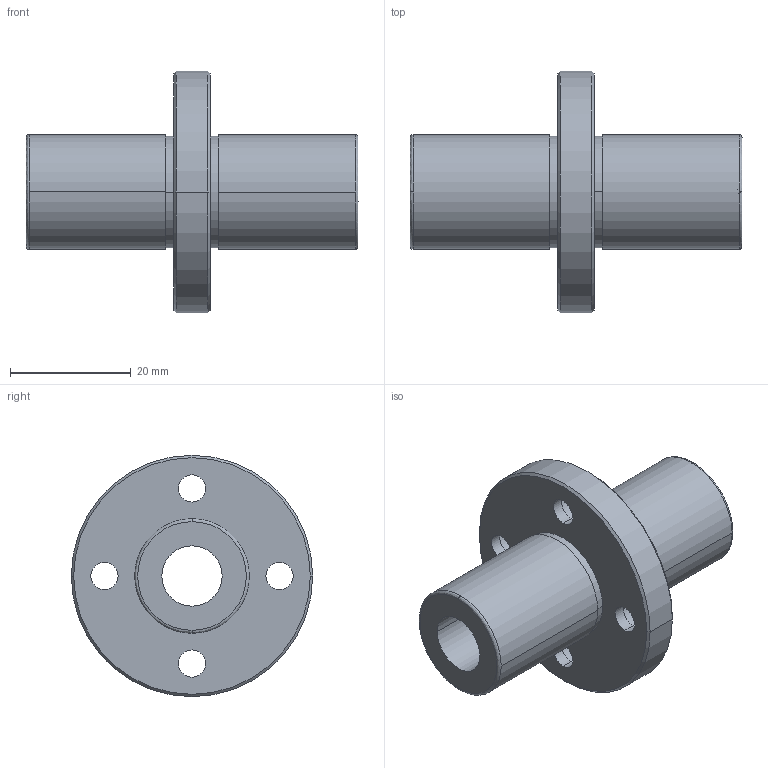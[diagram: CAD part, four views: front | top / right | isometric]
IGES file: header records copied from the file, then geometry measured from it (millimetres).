
Start section: 3D InterOp IGES (Version 21 0 1), Spatial Corp. Copyright (c) 1999-2007.
Global section: file name: NFCD-10VLUU.igs; native system: Spatial Corp.; preprocessor: 3D InterOp GENERIC/IGES 3.0; author: Noname; organization: Noname; date: 20220308.131956; units: millimetre
Bounding box: 55 x 40 x 40 mm (x, y, z)
Surface area: 8315 mm2 (no closed solid volume)
Topology: 0 solids, 0 shells, 46 faces, 214 edges, 212 vertices
Faces by surface type: revolution 36, extrusion 10
